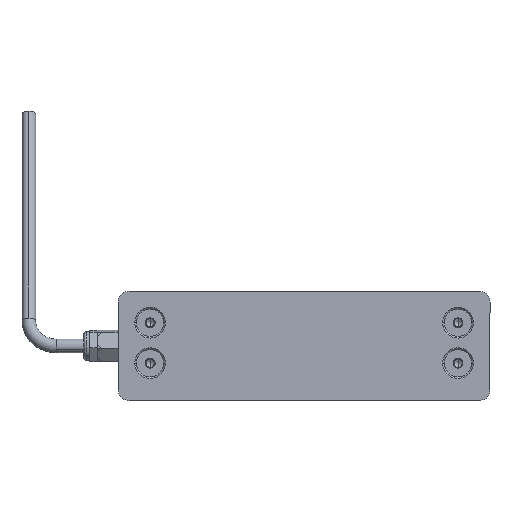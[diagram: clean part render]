
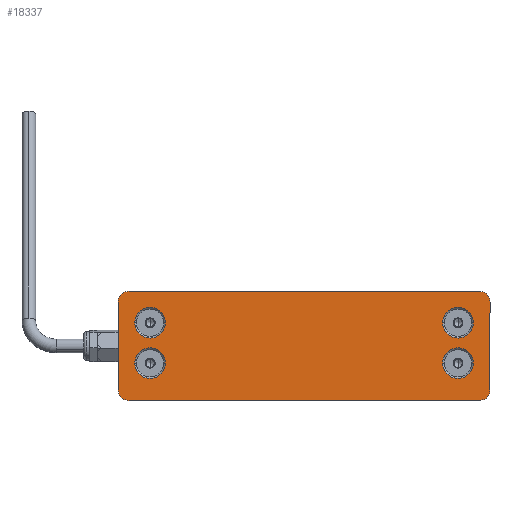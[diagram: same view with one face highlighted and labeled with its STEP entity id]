
A CAD part, left-side view. The second image highlights one B-rep face of the part: STEP entity #18337.
In plain terms, the highlighted planar face has unit normal (-1, 0, 0) as drawn and (0, 0, -1) by its records, which use the part's own axes.
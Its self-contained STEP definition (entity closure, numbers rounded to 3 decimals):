
#696 = VERTEX_POINT ( 'NONE', #16108 ) ;
#916 = AXIS2_PLACEMENT_3D ( 'NONE', #10450, #17556, #16187 ) ;
#931 = AXIS2_PLACEMENT_3D ( 'NONE', #5043, #3543, #12494 ) ;
#971 = FACE_BOUND ( 'NONE', #2333, .T. ) ;
#1412 = ORIENTED_EDGE ( 'NONE', *, *, #17219, .F. ) ;
#1485 = CARTESIAN_POINT ( 'NONE',  ( -64., -16., 0. ) ) ;
#1928 = DIRECTION ( 'NONE',  ( 0., 0., -1. ) ) ;
#2006 = CARTESIAN_POINT ( 'NONE',  ( 68., 16., 0. ) ) ;
#2075 = DIRECTION ( 'NONE',  ( -1., 0., 0. ) ) ;
#2158 = CIRCLE ( 'NONE', #14200, 5.6 ) ;
#2241 = CIRCLE ( 'NONE', #13330, 4. ) ;
#2270 = AXIS2_PLACEMENT_3D ( 'NONE', #1485, #4337, #10423 ) ;
#2323 = DIRECTION ( 'NONE',  ( -1., 0., 0. ) ) ;
#2333 = EDGE_LOOP ( 'NONE', ( #9557, #4818 ) ) ;
#2407 = VERTEX_POINT ( 'NONE', #6686 ) ;
#2702 = DIRECTION ( 'NONE',  ( 0., 0., -1. ) ) ;
#2834 = AXIS2_PLACEMENT_3D ( 'NONE', #7764, #1928, #15687 ) ;
#2882 = CIRCLE ( 'NONE', #2270, 4. ) ;
#2936 = DIRECTION ( 'NONE',  ( 0., 0., -1. ) ) ;
#3005 = CARTESIAN_POINT ( 'NONE',  ( 64., 20., 0. ) ) ;
#3206 = CARTESIAN_POINT ( 'NONE',  ( 68., -16., 0. ) ) ;
#3273 = CARTESIAN_POINT ( 'NONE',  ( -68., -16., 0. ) ) ;
#3543 = DIRECTION ( 'NONE',  ( 0., 0., 1. ) ) ;
#3956 = EDGE_CURVE ( 'NONE', #16257, #7855, #2882, .T. ) ;
#4028 = CIRCLE ( 'NONE', #15441, 5.6 ) ;
#4178 = FACE_BOUND ( 'NONE', #13344, .T. ) ;
#4337 = DIRECTION ( 'NONE',  ( 0., 0., 1. ) ) ;
#4361 = AXIS2_PLACEMENT_3D ( 'NONE', #7634, #13701, #13793 ) ;
#4631 = AXIS2_PLACEMENT_3D ( 'NONE', #15319, #7788, #16902 ) ;
#4660 = CIRCLE ( 'NONE', #916, 5.6 ) ;
#4698 = LINE ( 'NONE', #3206, #10389 ) ;
#4818 = ORIENTED_EDGE ( 'NONE', *, *, #8313, .F. ) ;
#4844 = EDGE_CURVE ( 'NONE', #11339, #6832, #13206, .T. ) ;
#4878 = CARTESIAN_POINT ( 'NONE',  ( 61.9, -6.3, 0. ) ) ;
#5020 = CARTESIAN_POINT ( 'NONE',  ( -68., 16., 0. ) ) ;
#5043 = CARTESIAN_POINT ( 'NONE',  ( -64., 16., 0. ) ) ;
#5091 = DIRECTION ( 'NONE',  ( 0., 0., -1. ) ) ;
#5110 = CARTESIAN_POINT ( 'NONE',  ( 68., -16., 0. ) ) ;
#5295 = CARTESIAN_POINT ( 'NONE',  ( 61.9, 8.5, 0. ) ) ;
#5873 = ORIENTED_EDGE ( 'NONE', *, *, #3956, .F. ) ;
#6004 = DIRECTION ( 'NONE',  ( -1., 0., 0. ) ) ;
#6091 = CARTESIAN_POINT ( 'NONE',  ( 56.3, -6.3, 0. ) ) ;
#6335 = EDGE_CURVE ( 'NONE', #696, #14908, #4028, .T. ) ;
#6365 = EDGE_LOOP ( 'NONE', ( #7008, #7701 ) ) ;
#6401 = EDGE_CURVE ( 'NONE', #16052, #10022, #4660, .T. ) ;
#6514 = EDGE_CURVE ( 'NONE', #17841, #2407, #2158, .T. ) ;
#6596 = VECTOR ( 'NONE', #12622, 1000. ) ;
#6663 = CARTESIAN_POINT ( 'NONE',  ( 56.3, -6.3, 0. ) ) ;
#6686 = CARTESIAN_POINT ( 'NONE',  ( -61.9, 8.5, 0. ) ) ;
#6691 = VERTEX_POINT ( 'NONE', #5110 ) ;
#6832 = VERTEX_POINT ( 'NONE', #3005 ) ;
#7008 = ORIENTED_EDGE ( 'NONE', *, *, #18146, .F. ) ;
#7406 = EDGE_CURVE ( 'NONE', #14272, #7644, #19220, .T. ) ;
#7634 = CARTESIAN_POINT ( 'NONE',  ( -56.3, 8.5, 0. ) ) ;
#7644 = VERTEX_POINT ( 'NONE', #5020 ) ;
#7701 = ORIENTED_EDGE ( 'NONE', *, *, #10710, .F. ) ;
#7764 = CARTESIAN_POINT ( 'NONE',  ( -56.3, -6.3, 0. ) ) ;
#7788 = DIRECTION ( 'NONE',  ( 0., 0., 1. ) ) ;
#7855 = VERTEX_POINT ( 'NONE', #18673 ) ;
#7904 = EDGE_CURVE ( 'NONE', #6691, #11339, #4698, .T. ) ;
#7959 = VERTEX_POINT ( 'NONE', #17484 ) ;
#7970 = CARTESIAN_POINT ( 'NONE',  ( -68., -16., 0. ) ) ;
#8313 = EDGE_CURVE ( 'NONE', #10022, #16052, #17013, .T. ) ;
#8344 = ORIENTED_EDGE ( 'NONE', *, *, #4844, .F. ) ;
#8483 = AXIS2_PLACEMENT_3D ( 'NONE', #19140, #10143, #10671 ) ;
#8889 = CARTESIAN_POINT ( 'NONE',  ( 64., -20., 0. ) ) ;
#8891 = CARTESIAN_POINT ( 'NONE',  ( 50.7, 8.5, 0. ) ) ;
#9140 = EDGE_CURVE ( 'NONE', #2407, #17841, #11050, .T. ) ;
#9494 = CIRCLE ( 'NONE', #16764, 5.6 ) ;
#9557 = ORIENTED_EDGE ( 'NONE', *, *, #6401, .F. ) ;
#9669 = EDGE_CURVE ( 'NONE', #7644, #16257, #16872, .T. ) ;
#9674 = CARTESIAN_POINT ( 'NONE',  ( -64., -20., 0. ) ) ;
#9770 = DIRECTION ( 'NONE',  ( 0., 0., -1. ) ) ;
#10022 = VERTEX_POINT ( 'NONE', #5295 ) ;
#10063 = DIRECTION ( 'NONE',  ( -1., 0., 0. ) ) ;
#10143 = DIRECTION ( 'NONE',  ( 0., 0., -1. ) ) ;
#10205 = CARTESIAN_POINT ( 'NONE',  ( -64., 20., 0. ) ) ;
#10309 = EDGE_CURVE ( 'NONE', #14908, #696, #12028, .T. ) ;
#10389 = VECTOR ( 'NONE', #10963, 1000. ) ;
#10400 = CARTESIAN_POINT ( 'NONE',  ( -64., 20., 0. ) ) ;
#10423 = DIRECTION ( 'NONE',  ( -1., 0., 0. ) ) ;
#10450 = CARTESIAN_POINT ( 'NONE',  ( 56.3, 8.5, 0. ) ) ;
#10654 = ORIENTED_EDGE ( 'NONE', *, *, #14080, .F. ) ;
#10671 = DIRECTION ( 'NONE',  ( -1., 0., 0. ) ) ;
#10710 = EDGE_CURVE ( 'NONE', #16222, #7959, #13615, .T. ) ;
#10824 = DIRECTION ( 'NONE',  ( 0., 0., 1. ) ) ;
#10907 = DIRECTION ( 'NONE',  ( 1., 0., 0. ) ) ;
#10953 = VERTEX_POINT ( 'NONE', #8889 ) ;
#10963 = DIRECTION ( 'NONE',  ( 0., 1., 0. ) ) ;
#11050 = CIRCLE ( 'NONE', #4361, 5.6 ) ;
#11110 = DIRECTION ( 'NONE',  ( 0., 0., -1. ) ) ;
#11185 = ORIENTED_EDGE ( 'NONE', *, *, #9140, .F. ) ;
#11326 = ORIENTED_EDGE ( 'NONE', *, *, #10309, .F. ) ;
#11339 = VERTEX_POINT ( 'NONE', #2006 ) ;
#11441 = FACE_BOUND ( 'NONE', #15213, .T. ) ;
#11633 = EDGE_CURVE ( 'NONE', #10953, #6691, #2241, .T. ) ;
#12028 = CIRCLE ( 'NONE', #2834, 5.6 ) ;
#12494 = DIRECTION ( 'NONE',  ( -1., 0., 0. ) ) ;
#12622 = DIRECTION ( 'NONE',  ( 0., -1., 0. ) ) ;
#12731 = ORIENTED_EDGE ( 'NONE', *, *, #7904, .F. ) ;
#13206 = CIRCLE ( 'NONE', #4631, 4. ) ;
#13267 = VECTOR ( 'NONE', #18761, 1000. ) ;
#13278 = LINE ( 'NONE', #10205, #17269 ) ;
#13330 = AXIS2_PLACEMENT_3D ( 'NONE', #18321, #10824, #10907 ) ;
#13344 = EDGE_LOOP ( 'NONE', ( #17101, #11326 ) ) ;
#13615 = CIRCLE ( 'NONE', #18017, 5.6 ) ;
#13701 = DIRECTION ( 'NONE',  ( 0., 0., -1. ) ) ;
#13793 = DIRECTION ( 'NONE',  ( -1., 0., 0. ) ) ;
#13914 = AXIS2_PLACEMENT_3D ( 'NONE', #17568, #2702, #10063 ) ;
#14080 = EDGE_CURVE ( 'NONE', #6832, #14272, #13278, .T. ) ;
#14200 = AXIS2_PLACEMENT_3D ( 'NONE', #18713, #11110, #2075 ) ;
#14272 = VERTEX_POINT ( 'NONE', #10400 ) ;
#14328 = ORIENTED_EDGE ( 'NONE', *, *, #6514, .F. ) ;
#14908 = VERTEX_POINT ( 'NONE', #17758 ) ;
#15213 = EDGE_LOOP ( 'NONE', ( #11185, #14328 ) ) ;
#15319 = CARTESIAN_POINT ( 'NONE',  ( 64., 16., 0. ) ) ;
#15441 = AXIS2_PLACEMENT_3D ( 'NONE', #17473, #9770, #18967 ) ;
#15687 = DIRECTION ( 'NONE',  ( -1., 0., 0. ) ) ;
#15927 = ORIENTED_EDGE ( 'NONE', *, *, #11633, .F. ) ;
#16052 = VERTEX_POINT ( 'NONE', #8891 ) ;
#16108 = CARTESIAN_POINT ( 'NONE',  ( -61.9, -6.3, 0. ) ) ;
#16187 = DIRECTION ( 'NONE',  ( -1., 0., 0. ) ) ;
#16222 = VERTEX_POINT ( 'NONE', #4878 ) ;
#16257 = VERTEX_POINT ( 'NONE', #7970 ) ;
#16362 = ORIENTED_EDGE ( 'NONE', *, *, #7406, .F. ) ;
#16764 = AXIS2_PLACEMENT_3D ( 'NONE', #6663, #5091, #2323 ) ;
#16849 = CARTESIAN_POINT ( 'NONE',  ( -50.7, 8.5, 0. ) ) ;
#16872 = LINE ( 'NONE', #3273, #6596 ) ;
#16902 = DIRECTION ( 'NONE',  ( -1., 0., 0. ) ) ;
#17013 = CIRCLE ( 'NONE', #8483, 5.6 ) ;
#17101 = ORIENTED_EDGE ( 'NONE', *, *, #6335, .F. ) ;
#17219 = EDGE_CURVE ( 'NONE', #7855, #10953, #17385, .T. ) ;
#17269 = VECTOR ( 'NONE', #19317, 1000. ) ;
#17385 = LINE ( 'NONE', #9674, #13267 ) ;
#17473 = CARTESIAN_POINT ( 'NONE',  ( -56.3, -6.3, 0. ) ) ;
#17484 = CARTESIAN_POINT ( 'NONE',  ( 50.7, -6.3, 0. ) ) ;
#17556 = DIRECTION ( 'NONE',  ( 0., 0., -1. ) ) ;
#17568 = CARTESIAN_POINT ( 'NONE',  ( 64., 16., 0. ) ) ;
#17758 = CARTESIAN_POINT ( 'NONE',  ( -50.7, -6.3, 0. ) ) ;
#17769 = PLANE ( 'NONE',  #13914 ) ;
#17841 = VERTEX_POINT ( 'NONE', #16849 ) ;
#18017 = AXIS2_PLACEMENT_3D ( 'NONE', #6091, #2936, #6004 ) ;
#18078 = EDGE_LOOP ( 'NONE', ( #8344, #12731, #15927, #1412, #5873, #19155, #16362, #10654 ) ) ;
#18146 = EDGE_CURVE ( 'NONE', #7959, #16222, #9494, .T. ) ;
#18321 = CARTESIAN_POINT ( 'NONE',  ( 64., -16., 0. ) ) ;
#18337 = ADVANCED_FACE ( 'NONE', ( #971, #19074, #11441, #4178, #18978 ), #17769, .T. ) ;
#18673 = CARTESIAN_POINT ( 'NONE',  ( -64., -20., 0. ) ) ;
#18713 = CARTESIAN_POINT ( 'NONE',  ( -56.3, 8.5, 0. ) ) ;
#18761 = DIRECTION ( 'NONE',  ( 1., 0., 0. ) ) ;
#18967 = DIRECTION ( 'NONE',  ( -1., 0., 0. ) ) ;
#18978 = FACE_OUTER_BOUND ( 'NONE', #18078, .T. ) ;
#19074 = FACE_BOUND ( 'NONE', #6365, .T. ) ;
#19140 = CARTESIAN_POINT ( 'NONE',  ( 56.3, 8.5, 0. ) ) ;
#19155 = ORIENTED_EDGE ( 'NONE', *, *, #9669, .F. ) ;
#19220 = CIRCLE ( 'NONE', #931, 4. ) ;
#19317 = DIRECTION ( 'NONE',  ( -1., 0., 0. ) ) ;
